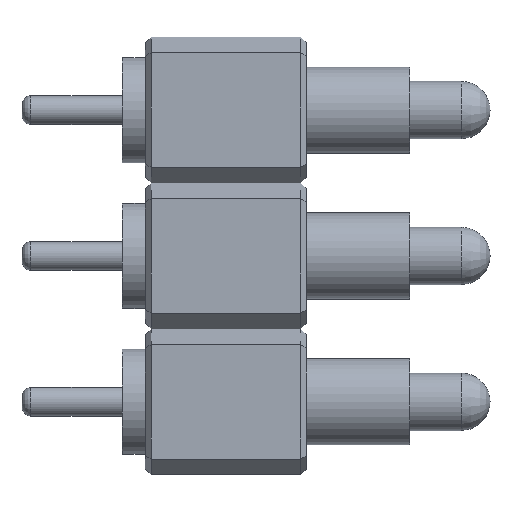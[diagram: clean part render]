
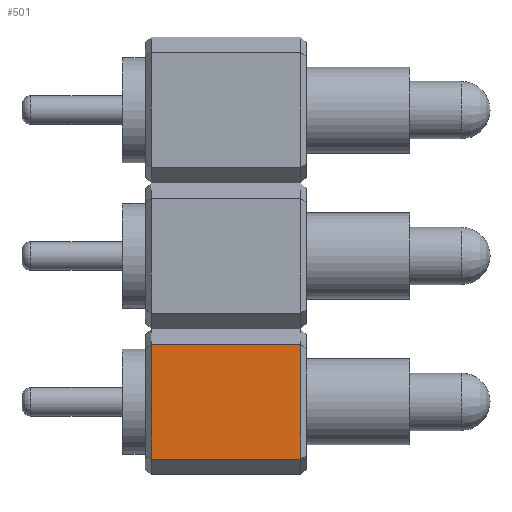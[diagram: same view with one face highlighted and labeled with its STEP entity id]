
A CAD part, top view. The second image highlights one B-rep face of the part: STEP entity #501.
In plain terms, the highlighted planar face has unit normal (0, 0, 1).
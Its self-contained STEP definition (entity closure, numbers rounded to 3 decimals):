
#84 = PLANE('',#85);
#85 = AXIS2_PLACEMENT_3D('',#86,#87,#88);
#86 = CARTESIAN_POINT('',(0.4,-1.,1.27));
#87 = DIRECTION('',(0.,0.887,-0.461));
#88 = DIRECTION('',(0.,-0.461,-0.887));
#181 = EDGE_CURVE('',#182,#184,#186,.T.);
#182 = VERTEX_POINT('',#183);
#183 = CARTESIAN_POINT('',(0.5,-1.,1.27));
#184 = VERTEX_POINT('',#185);
#185 = CARTESIAN_POINT('',(3.1,-1.,1.27));
#186 = SURFACE_CURVE('',#187,(#191,#198),.PCURVE_S1.);
#187 = LINE('',#188,#189);
#188 = CARTESIAN_POINT('',(0.4,-1.,1.27));
#189 = VECTOR('',#190,1.);
#190 = DIRECTION('',(1.,0.,0.));
#191 = PCURVE('',#84,#192);
#192 = DEFINITIONAL_REPRESENTATION('',(#193),#197);
#193 = LINE('',#194,#195);
#194 = CARTESIAN_POINT('',(0.,0.));
#195 = VECTOR('',#196,1.);
#196 = DIRECTION('',(0.,-1.));
#197 = ( GEOMETRIC_REPRESENTATION_CONTEXT(2) 
PARAMETRIC_REPRESENTATION_CONTEXT() REPRESENTATION_CONTEXT('2D SPACE',''
  ) );
#198 = PCURVE('',#199,#204);
#199 = PLANE('',#200);
#200 = AXIS2_PLACEMENT_3D('',#201,#202,#203);
#201 = CARTESIAN_POINT('',(0.4,1.,1.27));
#202 = DIRECTION('',(0.,0.,-1.));
#203 = DIRECTION('',(0.,-1.,0.));
#204 = DEFINITIONAL_REPRESENTATION('',(#205),#209);
#205 = LINE('',#206,#207);
#206 = CARTESIAN_POINT('',(2.,0.));
#207 = VECTOR('',#208,1.);
#208 = DIRECTION('',(0.,-1.));
#209 = ( GEOMETRIC_REPRESENTATION_CONTEXT(2) 
PARAMETRIC_REPRESENTATION_CONTEXT() REPRESENTATION_CONTEXT('2D SPACE',''
  ) );
#501 = ADVANCED_FACE('',(#502),#199,.F.);
#502 = FACE_BOUND('',#503,.F.);
#503 = EDGE_LOOP('',(#504,#534,#560,#561));
#504 = ORIENTED_EDGE('',*,*,#505,.T.);
#505 = EDGE_CURVE('',#506,#508,#510,.T.);
#506 = VERTEX_POINT('',#507);
#507 = CARTESIAN_POINT('',(0.5,1.,1.27));
#508 = VERTEX_POINT('',#509);
#509 = CARTESIAN_POINT('',(3.1,1.,1.27));
#510 = SURFACE_CURVE('',#511,(#515,#522),.PCURVE_S1.);
#511 = LINE('',#512,#513);
#512 = CARTESIAN_POINT('',(0.4,1.,1.27));
#513 = VECTOR('',#514,1.);
#514 = DIRECTION('',(1.,0.,0.));
#515 = PCURVE('',#199,#516);
#516 = DEFINITIONAL_REPRESENTATION('',(#517),#521);
#517 = LINE('',#518,#519);
#518 = CARTESIAN_POINT('',(0.,0.));
#519 = VECTOR('',#520,1.);
#520 = DIRECTION('',(0.,-1.));
#521 = ( GEOMETRIC_REPRESENTATION_CONTEXT(2) 
PARAMETRIC_REPRESENTATION_CONTEXT() REPRESENTATION_CONTEXT('2D SPACE',''
  ) );
#522 = PCURVE('',#523,#528);
#523 = PLANE('',#524);
#524 = AXIS2_PLACEMENT_3D('',#525,#526,#527);
#525 = CARTESIAN_POINT('',(0.4,1.27,0.75));
#526 = DIRECTION('',(0.,-0.887,-0.461));
#527 = DIRECTION('',(0.,-0.461,0.887));
#528 = DEFINITIONAL_REPRESENTATION('',(#529),#533);
#529 = LINE('',#530,#531);
#530 = CARTESIAN_POINT('',(0.586,0.));
#531 = VECTOR('',#532,1.);
#532 = DIRECTION('',(0.,-1.));
#533 = ( GEOMETRIC_REPRESENTATION_CONTEXT(2) 
PARAMETRIC_REPRESENTATION_CONTEXT() REPRESENTATION_CONTEXT('2D SPACE',''
  ) );
#534 = ORIENTED_EDGE('',*,*,#535,.T.);
#535 = EDGE_CURVE('',#508,#184,#536,.T.);
#536 = SURFACE_CURVE('',#537,(#541,#548),.PCURVE_S1.);
#537 = LINE('',#538,#539);
#538 = CARTESIAN_POINT('',(3.1,1.,1.27));
#539 = VECTOR('',#540,1.);
#540 = DIRECTION('',(0.,-1.,0.));
#541 = PCURVE('',#199,#542);
#542 = DEFINITIONAL_REPRESENTATION('',(#543),#547);
#543 = LINE('',#544,#545);
#544 = CARTESIAN_POINT('',(0.,-2.7));
#545 = VECTOR('',#546,1.);
#546 = DIRECTION('',(1.,0.));
#547 = ( GEOMETRIC_REPRESENTATION_CONTEXT(2) 
PARAMETRIC_REPRESENTATION_CONTEXT() REPRESENTATION_CONTEXT('2D SPACE',''
  ) );
#548 = PCURVE('',#549,#554);
#549 = PLANE('',#550);
#550 = AXIS2_PLACEMENT_3D('',#551,#552,#553);
#551 = CARTESIAN_POINT('',(3.15,1.,1.22));
#552 = DIRECTION('',(-0.707,0.,-0.707));
#553 = DIRECTION('',(0.,1.,0.));
#554 = DEFINITIONAL_REPRESENTATION('',(#555),#559);
#555 = LINE('',#556,#557);
#556 = CARTESIAN_POINT('',(0.,-0.071));
#557 = VECTOR('',#558,1.);
#558 = DIRECTION('',(-1.,0.));
#559 = ( GEOMETRIC_REPRESENTATION_CONTEXT(2) 
PARAMETRIC_REPRESENTATION_CONTEXT() REPRESENTATION_CONTEXT('2D SPACE',''
  ) );
#560 = ORIENTED_EDGE('',*,*,#181,.F.);
#561 = ORIENTED_EDGE('',*,*,#562,.F.);
#562 = EDGE_CURVE('',#506,#182,#563,.T.);
#563 = SURFACE_CURVE('',#564,(#568,#575),.PCURVE_S1.);
#564 = LINE('',#565,#566);
#565 = CARTESIAN_POINT('',(0.5,1.,1.27));
#566 = VECTOR('',#567,1.);
#567 = DIRECTION('',(0.,-1.,0.));
#568 = PCURVE('',#199,#569);
#569 = DEFINITIONAL_REPRESENTATION('',(#570),#574);
#570 = LINE('',#571,#572);
#571 = CARTESIAN_POINT('',(0.,-0.1));
#572 = VECTOR('',#573,1.);
#573 = DIRECTION('',(1.,0.));
#574 = ( GEOMETRIC_REPRESENTATION_CONTEXT(2) 
PARAMETRIC_REPRESENTATION_CONTEXT() REPRESENTATION_CONTEXT('2D SPACE',''
  ) );
#575 = PCURVE('',#576,#581);
#576 = PLANE('',#577);
#577 = AXIS2_PLACEMENT_3D('',#578,#579,#580);
#578 = CARTESIAN_POINT('',(0.45,1.,1.22));
#579 = DIRECTION('',(-0.707,0.,0.707));
#580 = DIRECTION('',(0.,1.,0.));
#581 = DEFINITIONAL_REPRESENTATION('',(#582),#586);
#582 = LINE('',#583,#584);
#583 = CARTESIAN_POINT('',(0.,-0.071));
#584 = VECTOR('',#585,1.);
#585 = DIRECTION('',(-1.,0.));
#586 = ( GEOMETRIC_REPRESENTATION_CONTEXT(2) 
PARAMETRIC_REPRESENTATION_CONTEXT() REPRESENTATION_CONTEXT('2D SPACE',''
  ) );
